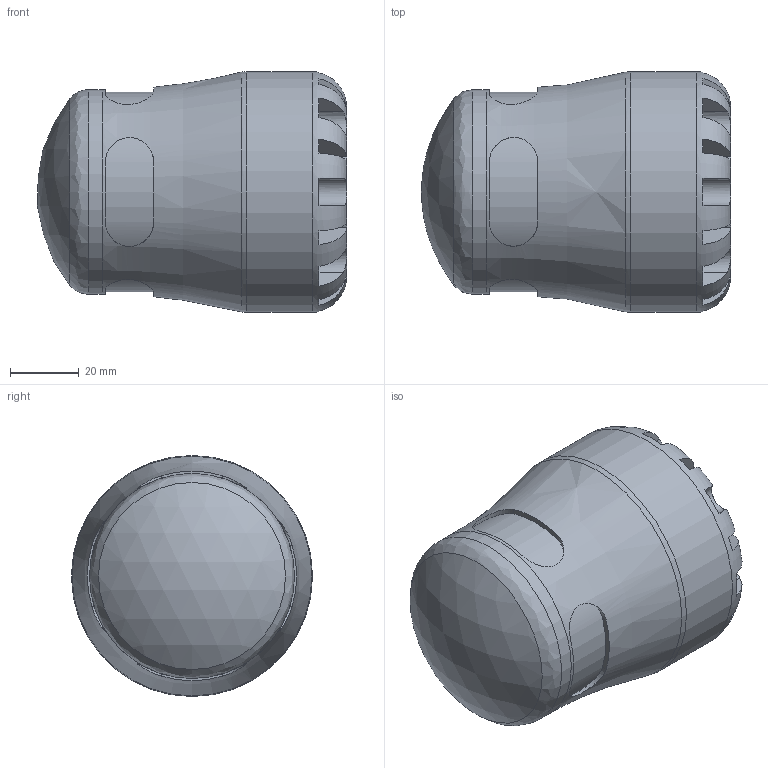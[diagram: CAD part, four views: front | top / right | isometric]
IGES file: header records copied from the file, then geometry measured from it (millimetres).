
Global section: file name: 101200040_191200040.ipt; native system: Autodesk Inventor 2015; preprocessor: unknown; author: KIM; date: 20170117.125123; units: millimetre
Bounding box: 89.8 x 70 x 70 mm (x, y, z)
Volume: 175640.1 mm3; surface area: 33408.8 mm2
Topology: 1 solids, 1 shells, 95 faces, 245 edges, 156 vertices
Faces by surface type: plane 57, revolution 23, cylinder 14, sphere 1
Full cylindrical faces by diameter (mm): 59.5 x1, 70 x1
